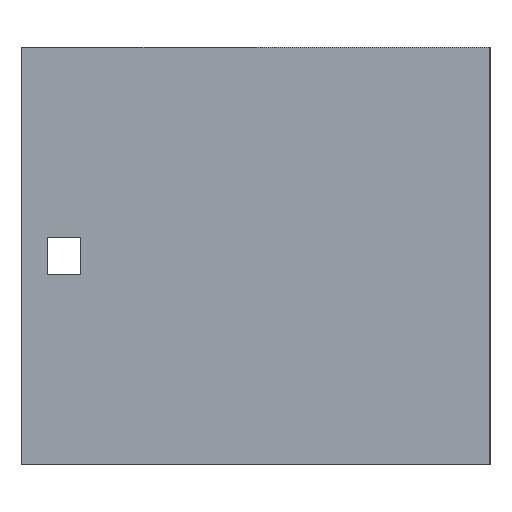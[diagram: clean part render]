
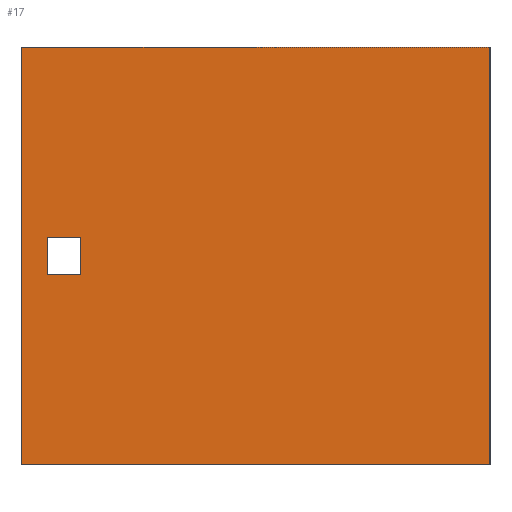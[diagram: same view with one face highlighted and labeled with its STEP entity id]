
A CAD part, left-side view. The second image highlights one B-rep face of the part: STEP entity #17.
In plain terms, the highlighted planar face has unit normal (-1, 0, 0).
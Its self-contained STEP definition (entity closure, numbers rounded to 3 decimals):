
#17 = ADVANCED_FACE('',(#18,#137),#32,.F.);
#18 = FACE_BOUND('',#19,.F.);
#19 = EDGE_LOOP('',(#20,#55,#83,#111));
#20 = ORIENTED_EDGE('',*,*,#21,.F.);
#21 = EDGE_CURVE('',#22,#24,#26,.T.);
#22 = VERTEX_POINT('',#23);
#23 = CARTESIAN_POINT('',(0.,0.,0.));
#24 = VERTEX_POINT('',#25);
#25 = CARTESIAN_POINT('',(0.,0.,100.));
#26 = SURFACE_CURVE('',#27,(#31,#43),.PCURVE_S1.);
#27 = LINE('',#28,#29);
#28 = CARTESIAN_POINT('',(0.,0.,0.));
#29 = VECTOR('',#30,1.);
#30 = DIRECTION('',(0.,0.,1.));
#31 = PCURVE('',#32,#37);
#32 = PLANE('',#33);
#33 = AXIS2_PLACEMENT_3D('',#34,#35,#36);
#34 = CARTESIAN_POINT('',(0.,0.,0.));
#35 = DIRECTION('',(1.,0.,0.));
#36 = DIRECTION('',(0.,0.,1.));
#37 = DEFINITIONAL_REPRESENTATION('',(#38),#42);
#38 = LINE('',#39,#40);
#39 = CARTESIAN_POINT('',(0.,0.));
#40 = VECTOR('',#41,1.);
#41 = DIRECTION('',(1.,0.));
#42 = ( GEOMETRIC_REPRESENTATION_CONTEXT(2) 
PARAMETRIC_REPRESENTATION_CONTEXT() REPRESENTATION_CONTEXT('2D SPACE',''
  ) );
#43 = PCURVE('',#44,#49);
#44 = PLANE('',#45);
#45 = AXIS2_PLACEMENT_3D('',#46,#47,#48);
#46 = CARTESIAN_POINT('',(0.,0.,0.));
#47 = DIRECTION('',(0.,1.,0.));
#48 = DIRECTION('',(0.,0.,1.));
#49 = DEFINITIONAL_REPRESENTATION('',(#50),#54);
#50 = LINE('',#51,#52);
#51 = CARTESIAN_POINT('',(0.,0.));
#52 = VECTOR('',#53,1.);
#53 = DIRECTION('',(1.,0.));
#54 = ( GEOMETRIC_REPRESENTATION_CONTEXT(2) 
PARAMETRIC_REPRESENTATION_CONTEXT() REPRESENTATION_CONTEXT('2D SPACE',''
  ) );
#55 = ORIENTED_EDGE('',*,*,#56,.T.);
#56 = EDGE_CURVE('',#22,#57,#59,.T.);
#57 = VERTEX_POINT('',#58);
#58 = CARTESIAN_POINT('',(0.,112.,0.));
#59 = SURFACE_CURVE('',#60,(#64,#71),.PCURVE_S1.);
#60 = LINE('',#61,#62);
#61 = CARTESIAN_POINT('',(0.,0.,0.));
#62 = VECTOR('',#63,1.);
#63 = DIRECTION('',(0.,1.,0.));
#64 = PCURVE('',#32,#65);
#65 = DEFINITIONAL_REPRESENTATION('',(#66),#70);
#66 = LINE('',#67,#68);
#67 = CARTESIAN_POINT('',(0.,0.));
#68 = VECTOR('',#69,1.);
#69 = DIRECTION('',(0.,-1.));
#70 = ( GEOMETRIC_REPRESENTATION_CONTEXT(2) 
PARAMETRIC_REPRESENTATION_CONTEXT() REPRESENTATION_CONTEXT('2D SPACE',''
  ) );
#71 = PCURVE('',#72,#77);
#72 = PLANE('',#73);
#73 = AXIS2_PLACEMENT_3D('',#74,#75,#76);
#74 = CARTESIAN_POINT('',(0.,0.,0.));
#75 = DIRECTION('',(0.,0.,1.));
#76 = DIRECTION('',(1.,0.,0.));
#77 = DEFINITIONAL_REPRESENTATION('',(#78),#82);
#78 = LINE('',#79,#80);
#79 = CARTESIAN_POINT('',(0.,0.));
#80 = VECTOR('',#81,1.);
#81 = DIRECTION('',(0.,1.));
#82 = ( GEOMETRIC_REPRESENTATION_CONTEXT(2) 
PARAMETRIC_REPRESENTATION_CONTEXT() REPRESENTATION_CONTEXT('2D SPACE',''
  ) );
#83 = ORIENTED_EDGE('',*,*,#84,.T.);
#84 = EDGE_CURVE('',#57,#85,#87,.T.);
#85 = VERTEX_POINT('',#86);
#86 = CARTESIAN_POINT('',(0.,112.,100.));
#87 = SURFACE_CURVE('',#88,(#92,#99),.PCURVE_S1.);
#88 = LINE('',#89,#90);
#89 = CARTESIAN_POINT('',(0.,112.,0.));
#90 = VECTOR('',#91,1.);
#91 = DIRECTION('',(0.,0.,1.));
#92 = PCURVE('',#32,#93);
#93 = DEFINITIONAL_REPRESENTATION('',(#94),#98);
#94 = LINE('',#95,#96);
#95 = CARTESIAN_POINT('',(0.,-112.));
#96 = VECTOR('',#97,1.);
#97 = DIRECTION('',(1.,0.));
#98 = ( GEOMETRIC_REPRESENTATION_CONTEXT(2) 
PARAMETRIC_REPRESENTATION_CONTEXT() REPRESENTATION_CONTEXT('2D SPACE',''
  ) );
#99 = PCURVE('',#100,#105);
#100 = PLANE('',#101);
#101 = AXIS2_PLACEMENT_3D('',#102,#103,#104);
#102 = CARTESIAN_POINT('',(0.,112.,0.));
#103 = DIRECTION('',(0.,1.,0.));
#104 = DIRECTION('',(0.,0.,1.));
#105 = DEFINITIONAL_REPRESENTATION('',(#106),#110);
#106 = LINE('',#107,#108);
#107 = CARTESIAN_POINT('',(0.,0.));
#108 = VECTOR('',#109,1.);
#109 = DIRECTION('',(1.,0.));
#110 = ( GEOMETRIC_REPRESENTATION_CONTEXT(2) 
PARAMETRIC_REPRESENTATION_CONTEXT() REPRESENTATION_CONTEXT('2D SPACE',''
  ) );
#111 = ORIENTED_EDGE('',*,*,#112,.F.);
#112 = EDGE_CURVE('',#24,#85,#113,.T.);
#113 = SURFACE_CURVE('',#114,(#118,#125),.PCURVE_S1.);
#114 = LINE('',#115,#116);
#115 = CARTESIAN_POINT('',(0.,0.,100.));
#116 = VECTOR('',#117,1.);
#117 = DIRECTION('',(0.,1.,0.));
#118 = PCURVE('',#32,#119);
#119 = DEFINITIONAL_REPRESENTATION('',(#120),#124);
#120 = LINE('',#121,#122);
#121 = CARTESIAN_POINT('',(100.,0.));
#122 = VECTOR('',#123,1.);
#123 = DIRECTION('',(0.,-1.));
#124 = ( GEOMETRIC_REPRESENTATION_CONTEXT(2) 
PARAMETRIC_REPRESENTATION_CONTEXT() REPRESENTATION_CONTEXT('2D SPACE',''
  ) );
#125 = PCURVE('',#126,#131);
#126 = PLANE('',#127);
#127 = AXIS2_PLACEMENT_3D('',#128,#129,#130);
#128 = CARTESIAN_POINT('',(0.,0.,100.));
#129 = DIRECTION('',(0.,0.,1.));
#130 = DIRECTION('',(1.,0.,0.));
#131 = DEFINITIONAL_REPRESENTATION('',(#132),#136);
#132 = LINE('',#133,#134);
#133 = CARTESIAN_POINT('',(0.,0.));
#134 = VECTOR('',#135,1.);
#135 = DIRECTION('',(0.,1.));
#136 = ( GEOMETRIC_REPRESENTATION_CONTEXT(2) 
PARAMETRIC_REPRESENTATION_CONTEXT() REPRESENTATION_CONTEXT('2D SPACE',''
  ) );
#137 = FACE_BOUND('',#138,.F.);
#138 = EDGE_LOOP('',(#139,#167,#193,#219));
#139 = ORIENTED_EDGE('',*,*,#140,.T.);
#140 = EDGE_CURVE('',#141,#143,#145,.T.);
#141 = VERTEX_POINT('',#142);
#142 = CARTESIAN_POINT('',(0.,106.,45.5));
#143 = VERTEX_POINT('',#144);
#144 = CARTESIAN_POINT('',(0.,98.,45.5));
#145 = SURFACE_CURVE('',#146,(#150,#156),.PCURVE_S1.);
#146 = LINE('',#147,#148);
#147 = CARTESIAN_POINT('',(0.,49.,45.5));
#148 = VECTOR('',#149,1.);
#149 = DIRECTION('',(0.,-1.,0.));
#150 = PCURVE('',#32,#151);
#151 = DEFINITIONAL_REPRESENTATION('',(#152),#155);
#152 = B_SPLINE_CURVE_WITH_KNOTS('',1,(#153,#154),.UNSPECIFIED.,.F.,.F.,
  (2,2),(-57.,-49.),.PIECEWISE_BEZIER_KNOTS.);
#153 = CARTESIAN_POINT('',(45.5,-106.));
#154 = CARTESIAN_POINT('',(45.5,-98.));
#155 = ( GEOMETRIC_REPRESENTATION_CONTEXT(2) 
PARAMETRIC_REPRESENTATION_CONTEXT() REPRESENTATION_CONTEXT('2D SPACE',''
  ) );
#156 = PCURVE('',#157,#162);
#157 = PLANE('',#158);
#158 = AXIS2_PLACEMENT_3D('',#159,#160,#161);
#159 = CARTESIAN_POINT('',(-0.1,98.,45.5));
#160 = DIRECTION('',(0.,0.,1.));
#161 = DIRECTION('',(1.,0.,0.));
#162 = DEFINITIONAL_REPRESENTATION('',(#163),#166);
#163 = B_SPLINE_CURVE_WITH_KNOTS('',1,(#164,#165),.UNSPECIFIED.,.F.,.F.,
  (2,2),(-57.,-49.),.PIECEWISE_BEZIER_KNOTS.);
#164 = CARTESIAN_POINT('',(0.1,8.));
#165 = CARTESIAN_POINT('',(0.1,0.));
#166 = ( GEOMETRIC_REPRESENTATION_CONTEXT(2) 
PARAMETRIC_REPRESENTATION_CONTEXT() REPRESENTATION_CONTEXT('2D SPACE',''
  ) );
#167 = ORIENTED_EDGE('',*,*,#168,.T.);
#168 = EDGE_CURVE('',#143,#169,#171,.T.);
#169 = VERTEX_POINT('',#170);
#170 = CARTESIAN_POINT('',(0.,98.,54.5));
#171 = SURFACE_CURVE('',#172,(#176,#182),.PCURVE_S1.);
#172 = LINE('',#173,#174);
#173 = CARTESIAN_POINT('',(0.,98.,22.75));
#174 = VECTOR('',#175,1.);
#175 = DIRECTION('',(0.,0.,1.));
#176 = PCURVE('',#32,#177);
#177 = DEFINITIONAL_REPRESENTATION('',(#178),#181);
#178 = B_SPLINE_CURVE_WITH_KNOTS('',1,(#179,#180),.UNSPECIFIED.,.F.,.F.,
  (2,2),(22.75,31.75),.PIECEWISE_BEZIER_KNOTS.);
#179 = CARTESIAN_POINT('',(45.5,-98.));
#180 = CARTESIAN_POINT('',(54.5,-98.));
#181 = ( GEOMETRIC_REPRESENTATION_CONTEXT(2) 
PARAMETRIC_REPRESENTATION_CONTEXT() REPRESENTATION_CONTEXT('2D SPACE',''
  ) );
#182 = PCURVE('',#183,#188);
#183 = PLANE('',#184);
#184 = AXIS2_PLACEMENT_3D('',#185,#186,#187);
#185 = CARTESIAN_POINT('',(-0.1,98.,45.5));
#186 = DIRECTION('',(0.,1.,0.));
#187 = DIRECTION('',(0.,0.,1.));
#188 = DEFINITIONAL_REPRESENTATION('',(#189),#192);
#189 = B_SPLINE_CURVE_WITH_KNOTS('',1,(#190,#191),.UNSPECIFIED.,.F.,.F.,
  (2,2),(22.75,31.75),.PIECEWISE_BEZIER_KNOTS.);
#190 = CARTESIAN_POINT('',(0.,0.1));
#191 = CARTESIAN_POINT('',(9.,0.1));
#192 = ( GEOMETRIC_REPRESENTATION_CONTEXT(2) 
PARAMETRIC_REPRESENTATION_CONTEXT() REPRESENTATION_CONTEXT('2D SPACE',''
  ) );
#193 = ORIENTED_EDGE('',*,*,#194,.F.);
#194 = EDGE_CURVE('',#195,#169,#197,.T.);
#195 = VERTEX_POINT('',#196);
#196 = CARTESIAN_POINT('',(0.,106.,54.5));
#197 = SURFACE_CURVE('',#198,(#202,#208),.PCURVE_S1.);
#198 = LINE('',#199,#200);
#199 = CARTESIAN_POINT('',(0.,49.,54.5));
#200 = VECTOR('',#201,1.);
#201 = DIRECTION('',(0.,-1.,0.));
#202 = PCURVE('',#32,#203);
#203 = DEFINITIONAL_REPRESENTATION('',(#204),#207);
#204 = B_SPLINE_CURVE_WITH_KNOTS('',1,(#205,#206),.UNSPECIFIED.,.F.,.F.,
  (2,2),(-57.,-49.),.PIECEWISE_BEZIER_KNOTS.);
#205 = CARTESIAN_POINT('',(54.5,-106.));
#206 = CARTESIAN_POINT('',(54.5,-98.));
#207 = ( GEOMETRIC_REPRESENTATION_CONTEXT(2) 
PARAMETRIC_REPRESENTATION_CONTEXT() REPRESENTATION_CONTEXT('2D SPACE',''
  ) );
#208 = PCURVE('',#209,#214);
#209 = PLANE('',#210);
#210 = AXIS2_PLACEMENT_3D('',#211,#212,#213);
#211 = CARTESIAN_POINT('',(-0.1,98.,54.5));
#212 = DIRECTION('',(0.,0.,1.));
#213 = DIRECTION('',(1.,0.,0.));
#214 = DEFINITIONAL_REPRESENTATION('',(#215),#218);
#215 = B_SPLINE_CURVE_WITH_KNOTS('',1,(#216,#217),.UNSPECIFIED.,.F.,.F.,
  (2,2),(-57.,-49.),.PIECEWISE_BEZIER_KNOTS.);
#216 = CARTESIAN_POINT('',(0.1,8.));
#217 = CARTESIAN_POINT('',(0.1,0.));
#218 = ( GEOMETRIC_REPRESENTATION_CONTEXT(2) 
PARAMETRIC_REPRESENTATION_CONTEXT() REPRESENTATION_CONTEXT('2D SPACE',''
  ) );
#219 = ORIENTED_EDGE('',*,*,#220,.F.);
#220 = EDGE_CURVE('',#141,#195,#221,.T.);
#221 = SURFACE_CURVE('',#222,(#226,#232),.PCURVE_S1.);
#222 = LINE('',#223,#224);
#223 = CARTESIAN_POINT('',(0.,106.,22.75));
#224 = VECTOR('',#225,1.);
#225 = DIRECTION('',(0.,0.,1.));
#226 = PCURVE('',#32,#227);
#227 = DEFINITIONAL_REPRESENTATION('',(#228),#231);
#228 = B_SPLINE_CURVE_WITH_KNOTS('',1,(#229,#230),.UNSPECIFIED.,.F.,.F.,
  (2,2),(22.75,31.75),.PIECEWISE_BEZIER_KNOTS.);
#229 = CARTESIAN_POINT('',(45.5,-106.));
#230 = CARTESIAN_POINT('',(54.5,-106.));
#231 = ( GEOMETRIC_REPRESENTATION_CONTEXT(2) 
PARAMETRIC_REPRESENTATION_CONTEXT() REPRESENTATION_CONTEXT('2D SPACE',''
  ) );
#232 = PCURVE('',#233,#238);
#233 = PLANE('',#234);
#234 = AXIS2_PLACEMENT_3D('',#235,#236,#237);
#235 = CARTESIAN_POINT('',(-0.1,106.,45.5));
#236 = DIRECTION('',(0.,1.,0.));
#237 = DIRECTION('',(0.,0.,1.));
#238 = DEFINITIONAL_REPRESENTATION('',(#239),#242);
#239 = B_SPLINE_CURVE_WITH_KNOTS('',1,(#240,#241),.UNSPECIFIED.,.F.,.F.,
  (2,2),(22.75,31.75),.PIECEWISE_BEZIER_KNOTS.);
#240 = CARTESIAN_POINT('',(0.,0.1));
#241 = CARTESIAN_POINT('',(9.,0.1));
#242 = ( GEOMETRIC_REPRESENTATION_CONTEXT(2) 
PARAMETRIC_REPRESENTATION_CONTEXT() REPRESENTATION_CONTEXT('2D SPACE',''
  ) );
